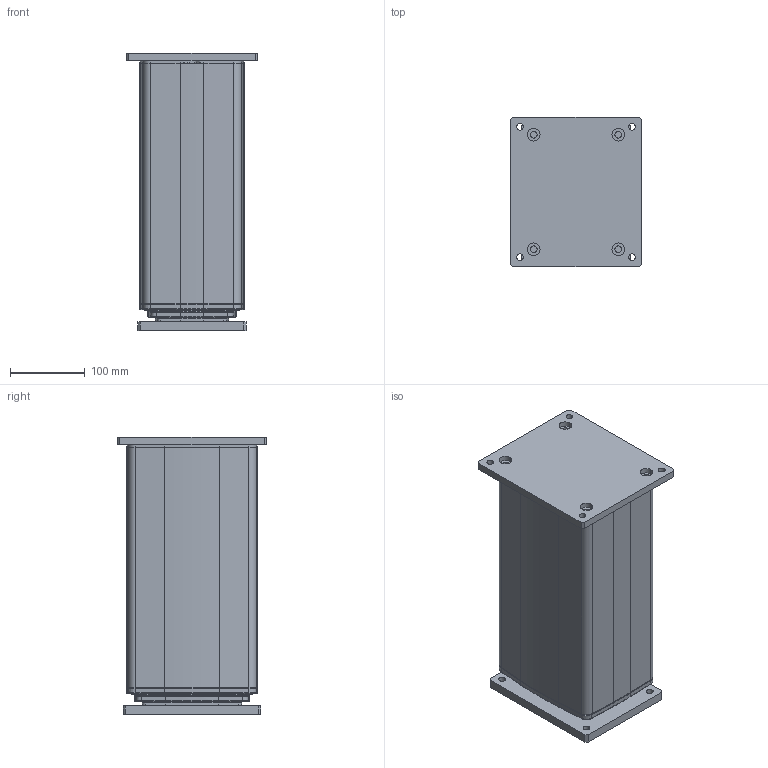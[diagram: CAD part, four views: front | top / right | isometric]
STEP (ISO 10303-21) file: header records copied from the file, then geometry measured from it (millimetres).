
FILE_DESCRIPTION((''),'2;1');
FILE_NAME('BL1-FOIL-MODEL_ASM','2023-05-08T09:53:46',('jak'),(''),'CREO PARAMETRIC BY PTC INC, 2022024','CREO PARAMETRIC BY PTC INC, 2022024','');
FILE_SCHEMA(('AUTOMOTIVE_DESIGN { 1 0 10303 214 1 1 1 1 }'));
Length unit declared in the file: millimetre
Products named in the file (7): BL1FOLIE-3_1; BL1FOLIE-2_1; BL1FOLIE-1_1; BL1FOLIE_ASM_1_ASM; 0801115; 0801116; BL1-FOIL-MODEL_ASM
Assembly tree (6 placements, depth 3):
  BL1-FOIL-MODEL_ASM
    BL1FOLIE_ASM_1_ASM
      BL1FOLIE-3_1
      BL1FOLIE-2_1
      BL1FOLIE-1_1
    0801115
    0801116
Bounding box: 175 x 200 x 372.2 mm (x, y, z)
Surface area: 766295.1 mm2
Topology: 5 solids, 21 shells, 1123 faces, 2942 edges, 1907 vertices
Faces by surface type: cylinder 472, plane 307, cone 136, torus 125, bspline 81, revolution 2
Entity records: 42634 total; most frequent: CARTESIAN_POINT 11909, DIRECTION 6124, ORIENTED_EDGE 5884, EDGE_CURVE 2942, AXIS2_PLACEMENT_3D 2459, VERTEX_POINT 1907, CIRCLE 1403, EDGE_LOOP 1227
